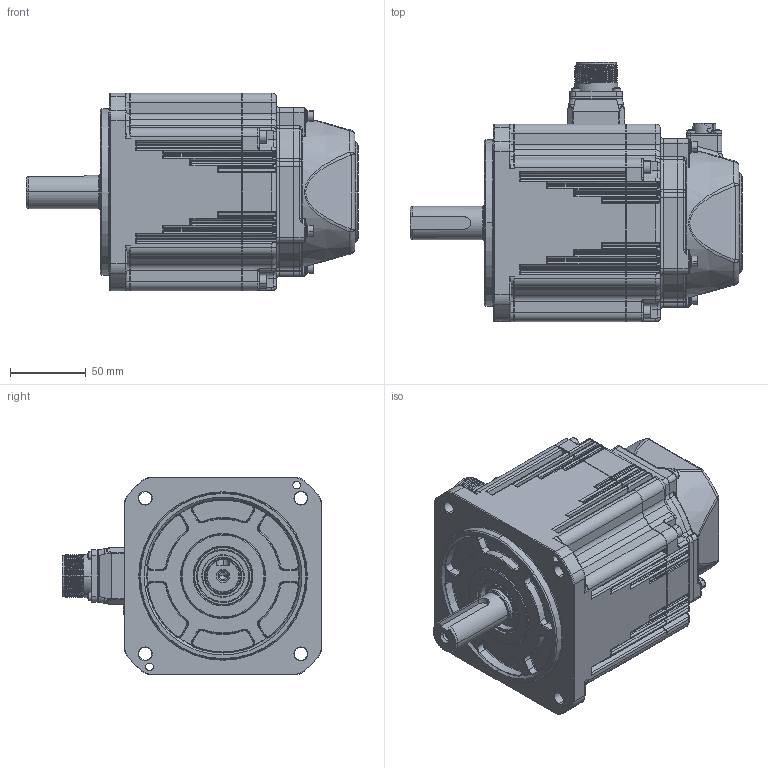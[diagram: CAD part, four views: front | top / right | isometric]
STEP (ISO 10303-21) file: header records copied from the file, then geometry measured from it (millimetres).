
FILE_DESCRIPTION (( 'STEP AP203' ), '1' );
FILE_NAME ('130儂釱-ACM2M-850W价陬.STEP', '2023-09-20T07:41:29', ( 'Microsoft' ), ( 'Microsoft' ), 'SwSTEP 2.0', 'SolidWorks 2021', '' );
FILE_SCHEMA (( 'CONFIG_CONTROL_DESIGN' ));
Products named in the file (13): 螺钉 M5×20 杯头_M5×20; 蚐猾; 130儂釱-ACM2M-850W价陬; 螺钉 M3×25 十字盘头_M3×10; 130前端盖0.85、1.3、1.8-渲染用_成品-0.85; 130价陬綴傷裔_傖こ; 蹟隊 M4℅14 戚芛; cms3102a18-a6pc-z--压接式-渲染用_6芯; ﾂﾝｶ､｣ｻM3｡ﾁ10｣ｬﾊｮﾗﾖｲﾛﾅﾌﾍｷ_M3｡ﾁ10; CMVl-10弯型系列插头连接器;SC-CMVl-APlOCB；电泳黑色；三竹; 130航插安装座-渲染用; 130蛌粣09_LX晤鎢ん; 130编码器盖2M 高44.9 尼龙+玻纤 ZX 渲染用
Assembly tree (27 placements, depth 2):
  130儂釱-ACM2M-850W价陬
    130前端盖0.85、1.3、1.8-渲染用_成品-0.85
    130价陬綴傷裔_傖こ
    130蛌粣09_LX晤鎢ん
    130航插安装座-渲染用
    蚐猾
    cms3102a18-a6pc-z--压接式-渲染用_6芯
    CMVl-10弯型系列插头连接器;SC-CMVl-APlOCB；电泳黑色；三竹
    130编码器盖2M 高44.9 尼龙+玻纤 ZX 渲染用
    螺钉 M5×20 杯头_M5×20  x4
    蹟隊 M4℅14 戚芛  x7
    螺钉 M3×25 十字盘头_M3×10  x4
    ﾂﾝｶ､｣ｻM3｡ﾁ10｣ｬﾊｮﾗﾖｲﾛﾅﾌﾍｷ_M3｡ﾁ10  x4
Bounding box: 218.7 x 170.9 x 130 mm (x, y, z)
Volume: 2252776.4 mm3; surface area: 226695.2 mm2
Topology: 42 solids, 50 shells, 4096 faces, 10149 edges, 6130 vertices
Faces by surface type: plane 1455, cylinder 1293, torus 619, bspline 334, cone 313, sphere 82
Entity records: 142380 total; most frequent: CARTESIAN_POINT 57182, ORIENTED_EDGE 17650, DIRECTION 17526, EDGE_CURVE 8825, AXIS2_PLACEMENT_3D 6673, VERTEX_POINT 5426, VECTOR 4180, LINE 4180
